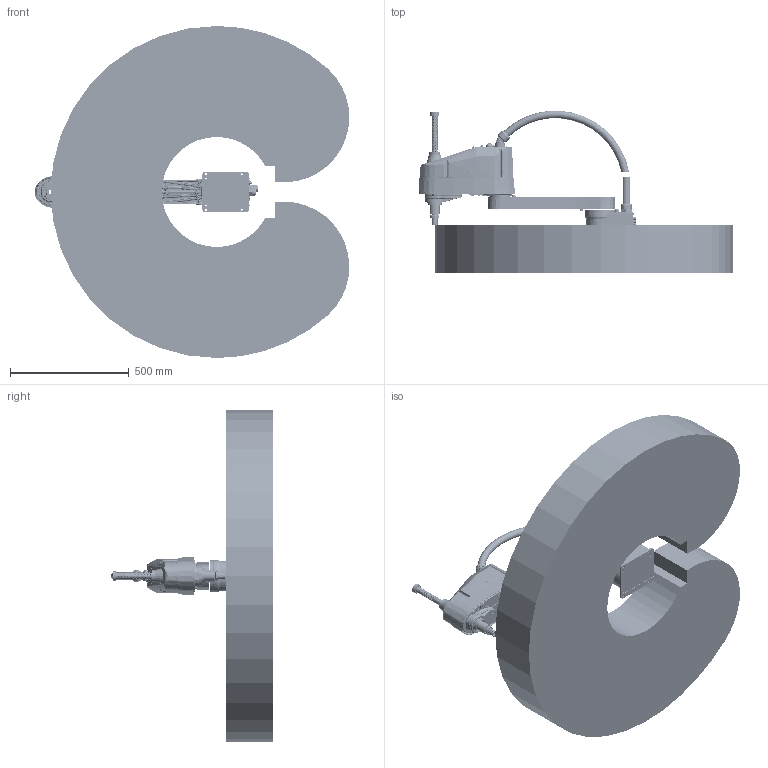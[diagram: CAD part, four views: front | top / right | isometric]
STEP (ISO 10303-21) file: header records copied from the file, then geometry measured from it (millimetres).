
FILE_DESCRIPTION (( 'STEP AP203' ), '1' );
FILE_NAME ('ER10-700-SR Íâ²¿Ä£ÐÍ.STEP', '2024-03-20T10:12:04', ( '' ), ( '' ), 'SwSTEP 2.0', 'SolidWorks 2018', '' );
FILE_SCHEMA (( 'CONFIG_CONTROL_DESIGN' ));
Length unit declared in the file: millimetre
Products named in the file (8): ER10-700-01; ER10-700-02; ER10-700-06; ER10-700-05; ER10-700-SR 俋窒耀倰; ER10-700-07; ER10-700-03; ER10-700-04
Assembly tree (7 placements, depth 2):
  ER10-700-SR 俋窒耀倰
    ER10-700-01
    ER10-700-02
    ER10-700-03
    ER10-700-04
    ER10-700-05
    ER10-700-06
    ER10-700-07
Bounding box: 1327.04 x 683.7 x 1400 mm (x, y, z)
Volume: 247333238.8 mm3; surface area: 5161905.7 mm2
Topology: 60 solids, 132 shells, 5515 faces, 12950 edges, 7891 vertices
Faces by surface type: cylinder 1737, plane 1679, bspline 734, cone 661, torus 622, sphere 82
Entity records: 230259 total; most frequent: CARTESIAN_POINT 109123, ORIENTED_EDGE 25506, DIRECTION 24472, EDGE_CURVE 12777, AXIS2_PLACEMENT_3D 9998, VERTEX_POINT 7890, EDGE_LOOP 6125, ADVANCED_FACE 5515
